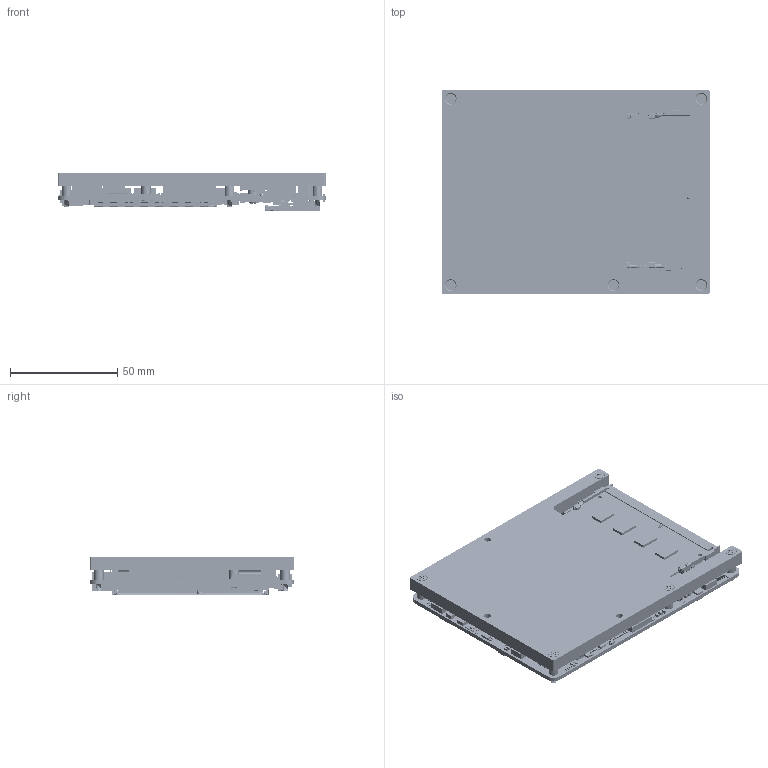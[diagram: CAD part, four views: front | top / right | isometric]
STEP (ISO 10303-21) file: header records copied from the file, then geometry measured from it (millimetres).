
FILE_DESCRIPTION((''),'2;1');
FILE_NAME('0-ESM-TGH_ASM','2022-09-08T17:39:58',('kobe_chang'),(''),'CREO PARAMETRIC BY PTC INC, 2018300','CREO PARAMETRIC BY PTC INC, 2018300','');
FILE_SCHEMA(('CONFIG_CONTROL_DESIGN','GEOMETRIC_VALIDATION_PROPERTIES_MIM'));
Products named in the file (90): ESM-TGH-PCB; E16712B0201H; E16A37D0414H; E16A37D041DH; E16A37D0404H; K10500_REV01_TGL-H_8C-GT1; K44490_R01; E1212201510H; E1212204715H; E121220102LH; DDR4-SO; ESM-TGH_HEATSPREADER; PK404-10-10-0_5T; ESM-TGH_HEATSPREADER-CU; PK404-7-7-1T; E1961223000023R_ASM; E123133272AH; E1231302767H; E118X633760H; E118XX33780H; E14S4751702H; E1315342410H; E1315331310H; E1315450810H; 1; 2; E1213103004H; E1213101215H; E0030100003; E0030100001; A-R0603; A-R0402; E0030100000; E1304100040H; E121220471F000H; E1213103000H; E121220102QH; E1212201529H; E1212201520H; E1212206811H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
Assembly tree (1472 placements, depth 3):
  0-ESM-TGH_ASM
    ESM-TGH-PCB
    E16712B0201H  x2
    E16A37D0414H
    E16A37D041DH
    E16A37D0404H
    K10500_REV01_TGL-H_8C-GT1
    K44490_R01
    E1212201510H  x3
    E1212204715H
    E121220102LH
    DDR4-SO
    E1961223000023R_ASM
      ESM-TGH_HEATSPREADER
      PK404-10-10-0_5T
      ESM-TGH_HEATSPREADER-CU
      PK404-7-7-1T  x2
    ESM-TGH_A01-M_20211001_ASM
      E123133272AH
      E1231302767H  x2
      E118X633760H  x2
      E118XX33780H  x5
      E14S4751702H
      E1315342410H  x2
      E1315331310H
      E1315450810H  x5
      1
      2
      E1213103004H  x9
      E1213101215H  x2
      E0030100003
      E0030100001  x31
      A-R0603  x23
      A-R0402  x585
      E0030100000  x10
      E1304100040H
      E121220471F000H
      E1212201510H  x3
      E1213103000H  x4
      E121220102QH
      E1212201529H
      E121220102LH
      E1212201520H
      E1212204715H
      E1212206811H
      E118X633782H  x2
      E1301075140R
      E1301034040H  x3
      E1301581741H  x2
      E1300051640H  x16
      E1305032340H
      A-C0805  x36
      A-C0402  x377
      A-C0603  x174
      E11216105A1H-M1  x69
      E1301005440H  x2
      E1315013812H  x3
      E14S3233000H
      E1600020201R
      E1060700002H  x17
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Bounding box: 125 x 95 x 18.2 mm (x, y, z)
Volume: 104316.4 mm3; surface area: 88183.1 mm2
Topology: 1472 solids, 1472 shells, 20117 faces, 48685 edges, 32049 vertices
Faces by surface type: plane 18658, cylinder 1209, bspline 181, cone 58, torus 7, extrusion 2, sphere 2
Entity records: 294115 total; most frequent: CARTESIAN_POINT 58451, DIRECTION 43617, ORIENTED_EDGE 41538, EDGE_CURVE 20769, VECTOR 18105, LINE 18103, VERTEX_POINT 13549, AXIS2_PLACEMENT_3D 12756
